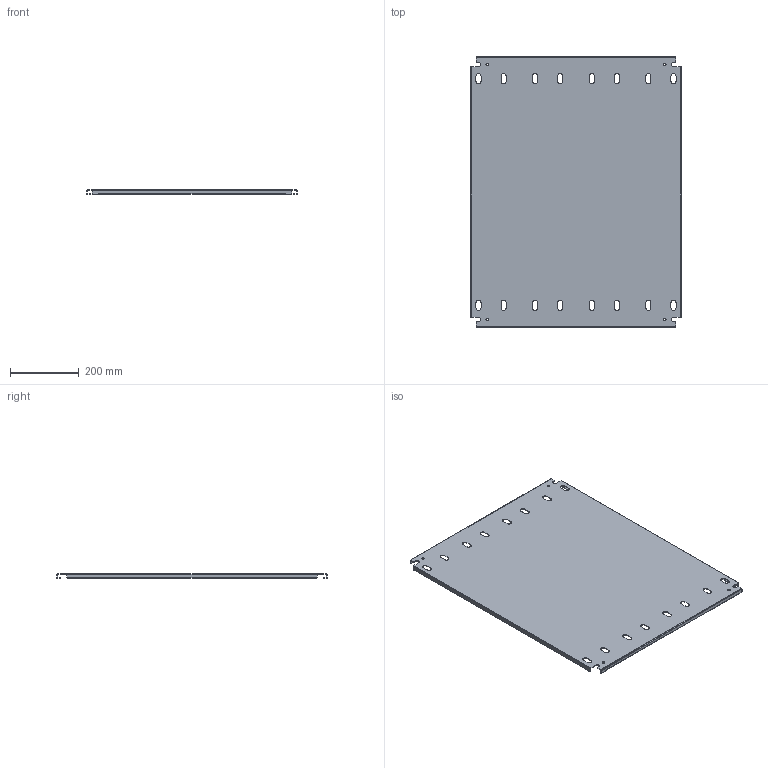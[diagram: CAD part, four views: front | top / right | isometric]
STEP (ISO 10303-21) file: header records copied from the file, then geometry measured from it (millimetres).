
FILE_DESCRIPTION(/* description */ ('1412BTCU 24.125" x 31" Left Inner Panel'),/* implementation_level */ '2;1');
FILE_NAME(/* name */ 'C:\Vault_Workspace\Inventor_Dwg\BoxCad\Result\1412BTCU10804\e-mail\3D\1412BTCU10804IP1.stp',/* time_stamp */ '2022-09-12T16:19:06-04:00',/* author */ ('BoxCad'),/* organization */ (''),/* preprocessor_version */ 'ST-DEVELOPER v18.1',/* originating_system */ 'Autodesk Inventor 2020',/* authorisation */ '');
FILE_SCHEMA (('AUTOMOTIVE_DESIGN { 1 0 10303 214 3 1 1 }'));
Length unit declared in the file: inch
Products named in the file (2): 1412BTCU10804IP1; 1412BTCU10804IP1-P
Assembly tree (1 placements, depth 2):
  1412BTCU10804IP1
    1412BTCU10804IP1-P
Bounding box: 612.77 x 787.4 x 13 mm (x, y, z)
Volume: 901642.5 mm3; surface area: 1051563.2 mm2
Topology: 1 solids, 1 shells, 174 faces, 516 edges, 344 vertices
Faces by surface type: plane 98, cylinder 76
Full cylindrical faces by diameter (mm): 7.366 x4
Entity records: 6001 total; most frequent: CARTESIAN_POINT 1037, ORIENTED_EDGE 1032, DIRECTION 1022, EDGE_CURVE 516, LINE 364, VECTOR 364, VERTEX_POINT 344, AXIS2_PLACEMENT_3D 329
